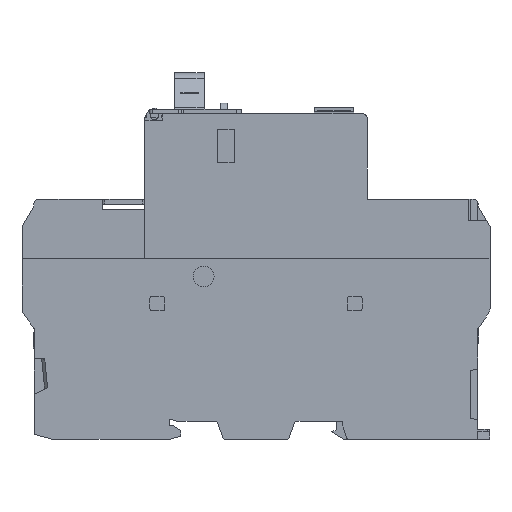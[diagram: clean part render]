
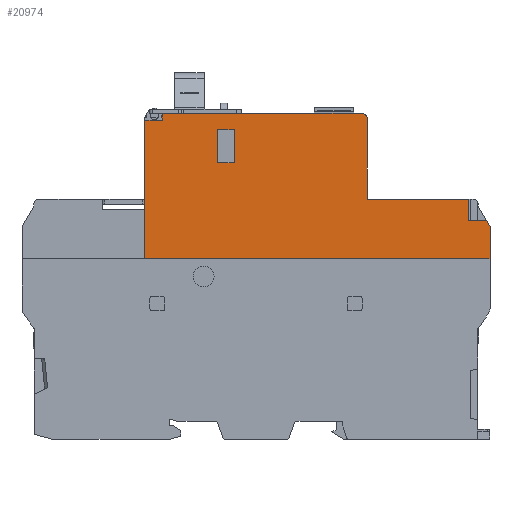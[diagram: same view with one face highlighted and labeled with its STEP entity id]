
A CAD part, left-side view. The second image highlights one B-rep face of the part: STEP entity #20974.
In plain terms, the highlighted planar face has unit normal (-1, 0, 0).
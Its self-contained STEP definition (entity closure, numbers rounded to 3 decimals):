
#1056 = CARTESIAN_POINT ( 'NONE',  ( -22.5, -45., 47.246 ) ) ;
#1508 = LINE ( 'NONE', #41244, #24384 ) ;
#1538 = ORIENTED_EDGE ( 'NONE', *, *, #27572, .T. ) ;
#1570 = CARTESIAN_POINT ( 'NONE',  ( -22.5, -43., 44.3 ) ) ;
#2016 = VERTEX_POINT ( 'NONE', #16544 ) ;
#2177 = VERTEX_POINT ( 'NONE', #36450 ) ;
#2269 = CARTESIAN_POINT ( 'NONE',  ( -22.5, -21.5, 66. ) ) ;
#2318 = CARTESIAN_POINT ( 'NONE',  ( -22.5, 7.8, 56. ) ) ;
#2434 = ORIENTED_EDGE ( 'NONE', *, *, #18938, .F. ) ;
#2874 = ORIENTED_EDGE ( 'NONE', *, *, #29355, .F. ) ;
#2885 = VERTEX_POINT ( 'NONE', #43567 ) ;
#3039 = DIRECTION ( 'NONE',  ( 0., 0., 1. ) ) ;
#3861 = EDGE_LOOP ( 'NONE', ( #18837, #10404, #42897, #31116, #2434, #1538, #30542, #23696, #18267, #2874, #30124, #38102, #36600 ) ) ;
#3975 = VECTOR ( 'NONE', #6918, 1000. ) ;
#4016 = CARTESIAN_POINT ( 'NONE',  ( -22.5, -43., 44.3 ) ) ;
#4349 = VECTOR ( 'NONE', #10176, 1000. ) ;
#4469 = CIRCLE ( 'NONE', #31453, 1. ) ;
#4534 = VECTOR ( 'NONE', #43718, 1000. ) ;
#5129 = CARTESIAN_POINT ( 'NONE',  ( -22.5, -22.5, 65. ) ) ;
#5642 = LINE ( 'NONE', #1056, #36874 ) ;
#6150 = LINE ( 'NONE', #1570, #21237 ) ;
#6880 = LINE ( 'NONE', #2318, #37311 ) ;
#6918 = DIRECTION ( 'NONE',  ( 0., 0., 1. ) ) ;
#6996 = EDGE_CURVE ( 'NONE', #18901, #11811, #17498, .T. ) ;
#7594 = CARTESIAN_POINT ( 'NONE',  ( -22.5, 19., 65.1 ) ) ;
#7716 = CARTESIAN_POINT ( 'NONE',  ( -22.5, 7.8, 56. ) ) ;
#8123 = CARTESIAN_POINT ( 'NONE',  ( -22.5, -46.7, 44.3 ) ) ;
#8323 = VECTOR ( 'NONE', #9168, 1000. ) ;
#8386 = DIRECTION ( 'NONE',  ( 0., -1., 0. ) ) ;
#8563 = LINE ( 'NONE', #4016, #4534 ) ;
#8566 = CARTESIAN_POINT ( 'NONE',  ( -22.5, 4.4, 56. ) ) ;
#9168 = DIRECTION ( 'NONE',  ( 0., 0., 1. ) ) ;
#9230 = FACE_BOUND ( 'NONE', #9689, .T. ) ;
#9689 = EDGE_LOOP ( 'NONE', ( #11696, #24341, #18473, #37990 ) ) ;
#10176 = DIRECTION ( 'NONE',  ( 0., -1., 0. ) ) ;
#10404 = ORIENTED_EDGE ( 'NONE', *, *, #42223, .F. ) ;
#10578 = LINE ( 'NONE', #32136, #26573 ) ;
#11020 = CARTESIAN_POINT ( 'NONE',  ( -22.5, -43., 44.3 ) ) ;
#11264 = VECTOR ( 'NONE', #8386, 1000. ) ;
#11484 = CARTESIAN_POINT ( 'NONE',  ( -22.5, 7.8, 62.7 ) ) ;
#11544 = EDGE_CURVE ( 'NONE', #24877, #43981, #6880, .T. ) ;
#11696 = ORIENTED_EDGE ( 'NONE', *, *, #6996, .T. ) ;
#11811 = VERTEX_POINT ( 'NONE', #16775 ) ;
#12162 = LINE ( 'NONE', #7594, #24124 ) ;
#12812 = VERTEX_POINT ( 'NONE', #11020 ) ;
#12961 = CARTESIAN_POINT ( 'NONE',  ( -22.5, 7.8, 62.7 ) ) ;
#13706 = VERTEX_POINT ( 'NONE', #17878 ) ;
#13727 = CARTESIAN_POINT ( 'NONE',  ( -22.5, 22.5, 65. ) ) ;
#13831 = FACE_OUTER_BOUND ( 'NONE', #3861, .T. ) ;
#14179 = VERTEX_POINT ( 'NONE', #2269 ) ;
#14744 = CARTESIAN_POINT ( 'NONE',  ( -22.5, 19., 64.6 ) ) ;
#15130 = EDGE_CURVE ( 'NONE', #40100, #2016, #5642, .T. ) ;
#15297 = CARTESIAN_POINT ( 'NONE',  ( -22.5, 7.8, 62.7 ) ) ;
#15359 = EDGE_CURVE ( 'NONE', #14179, #34685, #4469, .T. ) ;
#15905 = VECTOR ( 'NONE', #20962, 1000. ) ;
#15967 = EDGE_CURVE ( 'NONE', #42499, #36280, #12162, .T. ) ;
#16044 = LINE ( 'NONE', #11484, #3975 ) ;
#16544 = CARTESIAN_POINT ( 'NONE',  ( -22.5, -47.4, 43.088 ) ) ;
#16775 = CARTESIAN_POINT ( 'NONE',  ( -22.5, 4.4, 62.7 ) ) ;
#16783 = CARTESIAN_POINT ( 'NONE',  ( -22.5, 22.5, 64.6 ) ) ;
#16930 = VERTEX_POINT ( 'NONE', #18471 ) ;
#17498 = LINE ( 'NONE', #12961, #11264 ) ;
#17504 = DIRECTION ( 'NONE',  ( 0., -1., 0. ) ) ;
#17878 = CARTESIAN_POINT ( 'NONE',  ( -22.5, -43., 48.6 ) ) ;
#18267 = ORIENTED_EDGE ( 'NONE', *, *, #15359, .F. ) ;
#18279 = LINE ( 'NONE', #13727, #8323 ) ;
#18471 = CARTESIAN_POINT ( 'NONE',  ( -22.5, -47.4, 36.6 ) ) ;
#18473 = ORIENTED_EDGE ( 'NONE', *, *, #11544, .T. ) ;
#18837 = ORIENTED_EDGE ( 'NONE', *, *, #33814, .F. ) ;
#18901 = VERTEX_POINT ( 'NONE', #15297 ) ;
#18920 = EDGE_CURVE ( 'NONE', #11811, #24877, #36823, .T. ) ;
#18938 = EDGE_CURVE ( 'NONE', #12812, #40100, #8563, .T. ) ;
#19131 = CARTESIAN_POINT ( 'NONE',  ( -22.5, 19., 64.6 ) ) ;
#19273 = LINE ( 'NONE', #14744, #4349 ) ;
#20676 = AXIS2_PLACEMENT_3D ( 'NONE', #32511, #27994, #23460 ) ;
#20962 = DIRECTION ( 'NONE',  ( 0., -1., 0. ) ) ;
#20974 = ADVANCED_FACE ( 'NONE', ( #9230, #13831 ), #37051, .F. ) ;
#21237 = VECTOR ( 'NONE', #41302, 1000. ) ;
#22006 = CARTESIAN_POINT ( 'NONE',  ( -22.5, -44.007, 48.6 ) ) ;
#22298 = VECTOR ( 'NONE', #23921, 1000. ) ;
#22947 = VERTEX_POINT ( 'NONE', #34332 ) ;
#23460 = DIRECTION ( 'NONE',  ( 0., 0., -1. ) ) ;
#23696 = ORIENTED_EDGE ( 'NONE', *, *, #36074, .F. ) ;
#23921 = DIRECTION ( 'NONE',  ( 0., 1., 0. ) ) ;
#24124 = VECTOR ( 'NONE', #3039, 1000. ) ;
#24341 = ORIENTED_EDGE ( 'NONE', *, *, #18920, .T. ) ;
#24384 = VECTOR ( 'NONE', #36744, 1000. ) ;
#24877 = VERTEX_POINT ( 'NONE', #8566 ) ;
#25039 = EDGE_CURVE ( 'NONE', #34087, #42499, #19273, .T. ) ;
#25447 = CARTESIAN_POINT ( 'NONE',  ( -22.5, -21.5, 66. ) ) ;
#26529 = LINE ( 'NONE', #22006, #31998 ) ;
#26573 = VECTOR ( 'NONE', #27629, 1000. ) ;
#27572 = EDGE_CURVE ( 'NONE', #12812, #13706, #6150, .T. ) ;
#27629 = DIRECTION ( 'NONE',  ( 0., 0., 1. ) ) ;
#27777 = DIRECTION ( 'NONE',  ( 0., 0., -1. ) ) ;
#27994 = DIRECTION ( 'NONE',  ( 1., 0., 0. ) ) ;
#28460 = CARTESIAN_POINT ( 'NONE',  ( -22.5, 47.4, 36.6 ) ) ;
#29355 = EDGE_CURVE ( 'NONE', #36280, #14179, #29972, .T. ) ;
#29972 = LINE ( 'NONE', #25447, #15905 ) ;
#30124 = ORIENTED_EDGE ( 'NONE', *, *, #15967, .F. ) ;
#30542 = ORIENTED_EDGE ( 'NONE', *, *, #42652, .F. ) ;
#31116 = ORIENTED_EDGE ( 'NONE', *, *, #15130, .F. ) ;
#31453 = AXIS2_PLACEMENT_3D ( 'NONE', #41311, #36804, #32265 ) ;
#31998 = VECTOR ( 'NONE', #17504, 1000. ) ;
#32136 = CARTESIAN_POINT ( 'NONE',  ( -22.5, 22.5, 43.6 ) ) ;
#32265 = DIRECTION ( 'NONE',  ( 0., 0., 1. ) ) ;
#32287 = CARTESIAN_POINT ( 'NONE',  ( -22.5, 4.4, 62.7 ) ) ;
#32511 = CARTESIAN_POINT ( 'NONE',  ( -22.5, 44.004, 47.6 ) ) ;
#32881 = DIRECTION ( 'NONE',  ( 0., 0., -1. ) ) ;
#32977 = LINE ( 'NONE', #28460, #22298 ) ;
#33134 = EDGE_CURVE ( 'NONE', #43981, #18901, #16044, .T. ) ;
#33814 = EDGE_CURVE ( 'NONE', #22947, #2177, #10578, .T. ) ;
#34087 = VERTEX_POINT ( 'NONE', #16783 ) ;
#34332 = CARTESIAN_POINT ( 'NONE',  ( -22.5, 22.5, 36.6 ) ) ;
#34442 = EDGE_CURVE ( 'NONE', #2016, #16930, #41921, .T. ) ;
#34475 = EDGE_CURVE ( 'NONE', #2177, #34087, #18279, .T. ) ;
#34685 = VERTEX_POINT ( 'NONE', #5129 ) ;
#35118 = CARTESIAN_POINT ( 'NONE',  ( -22.5, 19., 66. ) ) ;
#36074 = EDGE_CURVE ( 'NONE', #34685, #2885, #1508, .T. ) ;
#36280 = VERTEX_POINT ( 'NONE', #35118 ) ;
#36450 = CARTESIAN_POINT ( 'NONE',  ( -22.5, 22.5, 48.6 ) ) ;
#36600 = ORIENTED_EDGE ( 'NONE', *, *, #34475, .F. ) ;
#36744 = DIRECTION ( 'NONE',  ( 0., 0., -1. ) ) ;
#36804 = DIRECTION ( 'NONE',  ( 1., 0., 0. ) ) ;
#36823 = LINE ( 'NONE', #32287, #38491 ) ;
#36874 = VECTOR ( 'NONE', #40801, 1000. ) ;
#37051 = PLANE ( 'NONE',  #20676 ) ;
#37311 = VECTOR ( 'NONE', #42040, 1000. ) ;
#37411 = CARTESIAN_POINT ( 'NONE',  ( -22.5, -47.4, 43.088 ) ) ;
#37990 = ORIENTED_EDGE ( 'NONE', *, *, #33134, .T. ) ;
#38102 = ORIENTED_EDGE ( 'NONE', *, *, #25039, .F. ) ;
#38491 = VECTOR ( 'NONE', #27777, 1000. ) ;
#40100 = VERTEX_POINT ( 'NONE', #8123 ) ;
#40801 = DIRECTION ( 'NONE',  ( 0., -0.5, -0.866 ) ) ;
#41120 = VECTOR ( 'NONE', #32881, 1000. ) ;
#41244 = CARTESIAN_POINT ( 'NONE',  ( -22.5, -22.5, 65. ) ) ;
#41302 = DIRECTION ( 'NONE',  ( 0., 0., 1. ) ) ;
#41311 = CARTESIAN_POINT ( 'NONE',  ( -22.5, -21.5, 65. ) ) ;
#41921 = LINE ( 'NONE', #37411, #41120 ) ;
#42040 = DIRECTION ( 'NONE',  ( 0., 1., 0. ) ) ;
#42223 = EDGE_CURVE ( 'NONE', #16930, #22947, #32977, .T. ) ;
#42499 = VERTEX_POINT ( 'NONE', #19131 ) ;
#42652 = EDGE_CURVE ( 'NONE', #2885, #13706, #26529, .T. ) ;
#42897 = ORIENTED_EDGE ( 'NONE', *, *, #34442, .F. ) ;
#43567 = CARTESIAN_POINT ( 'NONE',  ( -22.5, -22.5, 48.6 ) ) ;
#43718 = DIRECTION ( 'NONE',  ( 0., -1., 0. ) ) ;
#43981 = VERTEX_POINT ( 'NONE', #7716 ) ;
